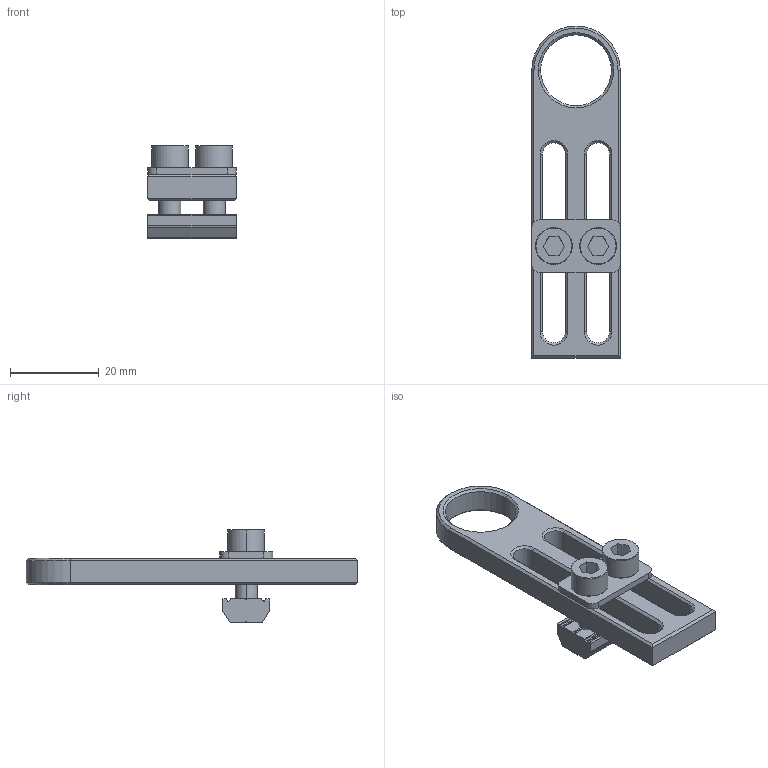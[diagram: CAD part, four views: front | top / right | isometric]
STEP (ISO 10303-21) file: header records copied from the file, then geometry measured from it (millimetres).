
FILE_DESCRIPTION (( 'STEP AP214' ), '1' );
FILE_NAME ('SMBE5-M1640T.STEP', '2023-01-09T06:51:44', ( 'Windows User' ), ( 'P R C' ), 'SwSTEP 2.0', 'SolidWorks 2018', '' );
FILE_SCHEMA (( 'AUTOMOTIVE_DESIGN' ));
Length unit declared in the file: millimetre
Products named in the file (5): PTN-M5P10; PTD-M5P10; PTC-M5L16; SMBE5-M1640; SMBE5-M1640T
Assembly tree (5 placements, depth 2):
  SMBE5-M1640T
    SMBE5-M1640
    PTC-M5L16  x2
    PTD-M5P10
    PTN-M5P10
Bounding box: 20 x 75 x 21 mm (x, y, z)
Volume: 6900.8 mm3; surface area: 6300.6 mm2
Topology: 5 solids, 5 shells, 159 faces, 407 edges, 258 vertices
Faces by surface type: plane 77, cylinder 56, cone 26
Entity records: 4557 total; most frequent: CARTESIAN_POINT 888, ORIENTED_EDGE 730, DIRECTION 711, EDGE_CURVE 365, AXIS2_PLACEMENT_3D 247, VERTEX_POINT 232, LINE 217, VECTOR 217
